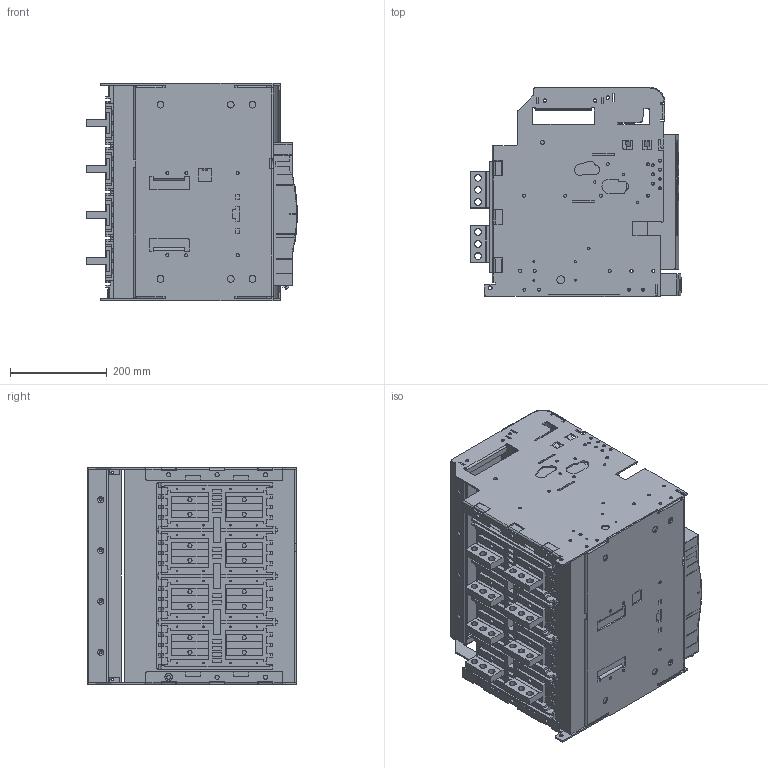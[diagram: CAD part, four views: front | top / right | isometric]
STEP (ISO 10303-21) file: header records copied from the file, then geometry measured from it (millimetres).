
FILE_DESCRIPTION (( 'STEP AP214' ), '1' );
FILE_NAME ('OptiMat A-S2-B-2000-4P-D-V.STEP', '2023-07-31T10:49:11', ( '' ), ( '' ), 'SwSTEP 2.0', 'SolidWorks 2018', '' );
FILE_SCHEMA (( 'AUTOMOTIVE_DESIGN' ));
Length unit declared in the file: millimetre
Products named in the file (1): OptiMat A-S2-B-2000-4P-D-V
Bounding box: 435.05 x 431.5 x 450 mm (x, y, z)
Volume: 48881926.4 mm3; surface area: 2734613.1 mm2
Topology: 18 solids, 33 shells, 3524 faces, 9475 edges, 6202 vertices
Faces by surface type: plane 2117, cylinder 1294, cone 77, torus 26, bspline 10
Entity records: 154178 total; most frequent: CARTESIAN_POINT 25437, DIRECTION 19017, ORIENTED_EDGE 18946, EDGE_CURVE 9473, LINE 6649, VECTOR 6649, VERTEX_POINT 6202, AXIS2_PLACEMENT_3D 6184
